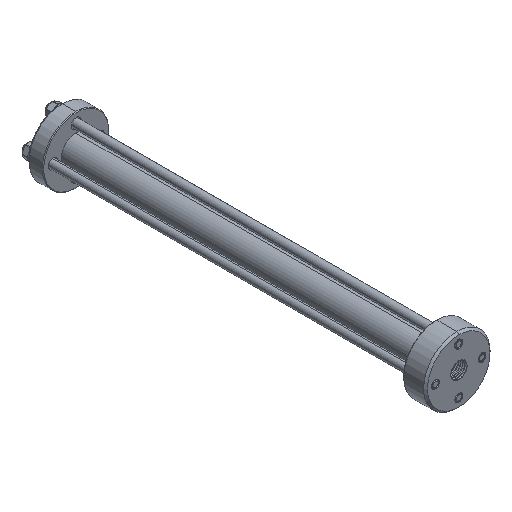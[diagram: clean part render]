
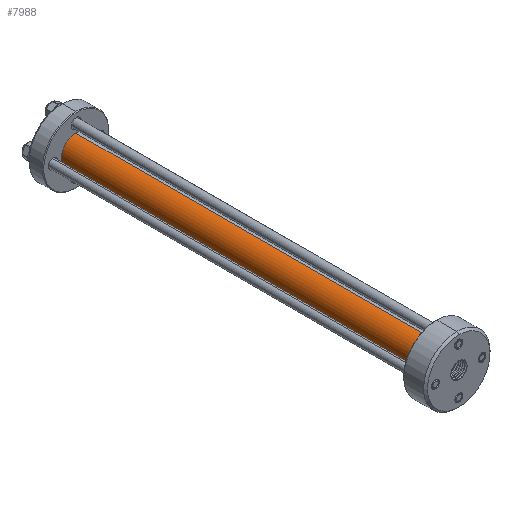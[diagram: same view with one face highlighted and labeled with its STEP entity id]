
A CAD part, isometric view. The second image highlights one B-rep face of the part: STEP entity #7988.
In plain terms, the highlighted cylindrical face has radius 11 mm (diameter 22 mm), a partial arc.
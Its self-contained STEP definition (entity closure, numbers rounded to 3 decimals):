
#1995 = CARTESIAN_POINT ( 'NONE',  ( 40.045, 23.458, 101.617 ) ) ;
#2233 = AXIS2_PLACEMENT_3D ( 'NONE', #1995, #11554, #6445 ) ;
#3775 = CYLINDRICAL_SURFACE ( 'NONE', #40906, 11. ) ;
#4003 = DIRECTION ( 'NONE',  ( 0., 0., 1. ) ) ;
#6445 = DIRECTION ( 'NONE',  ( 0., 0., 1. ) ) ;
#7988 = ADVANCED_FACE ( 'NONE', ( #61710 ), #3775, .T. ) ;
#11554 = DIRECTION ( 'NONE',  ( 0., 1., 0. ) ) ;
#12233 = ORIENTED_EDGE ( 'NONE', *, *, #29730, .T. ) ;
#12776 = CIRCLE ( 'NONE', #46467, 11. ) ;
#18334 = CARTESIAN_POINT ( 'NONE',  ( 40.045, 302.458, 101.617 ) ) ;
#18993 = DIRECTION ( 'NONE',  ( 0., 1., 0. ) ) ;
#19296 = CARTESIAN_POINT ( 'NONE',  ( 40.045, 302.458, 90.617 ) ) ;
#19760 = ORIENTED_EDGE ( 'NONE', *, *, #61955, .F. ) ;
#20786 = LINE ( 'NONE', #57219, #39354 ) ;
#23316 = ORIENTED_EDGE ( 'NONE', *, *, #66487, .T. ) ;
#29730 = EDGE_CURVE ( 'NONE', #52664, #52238, #31565, .T. ) ;
#31565 = CIRCLE ( 'NONE', #2233, 11. ) ;
#33538 = VERTEX_POINT ( 'NONE', #50091 ) ;
#33922 = DIRECTION ( 'NONE',  ( 0., -1., 0. ) ) ;
#35370 = EDGE_LOOP ( 'NONE', ( #19760, #66238, #23316, #12233 ) ) ;
#39003 = EDGE_CURVE ( 'NONE', #51403, #33538, #12776, .T. ) ;
#39354 = VECTOR ( 'NONE', #61363, 1000. ) ;
#40824 = VECTOR ( 'NONE', #33922, 1000. ) ;
#40906 = AXIS2_PLACEMENT_3D ( 'NONE', #51125, #66173, #45036 ) ;
#45036 = DIRECTION ( 'NONE',  ( 0., 0., -1. ) ) ;
#46467 = AXIS2_PLACEMENT_3D ( 'NONE', #18334, #18993, #4003 ) ;
#50091 = CARTESIAN_POINT ( 'NONE',  ( 40.045, 302.458, 112.617 ) ) ;
#51125 = CARTESIAN_POINT ( 'NONE',  ( 40.045, 302.458, 101.617 ) ) ;
#51403 = VERTEX_POINT ( 'NONE', #51951 ) ;
#51464 = CARTESIAN_POINT ( 'NONE',  ( 40.045, 23.458, 112.617 ) ) ;
#51951 = CARTESIAN_POINT ( 'NONE',  ( 40.045, 302.458, 90.617 ) ) ;
#52238 = VERTEX_POINT ( 'NONE', #51464 ) ;
#52664 = VERTEX_POINT ( 'NONE', #57402 ) ;
#56073 = LINE ( 'NONE', #19296, #40824 ) ;
#57219 = CARTESIAN_POINT ( 'NONE',  ( 40.045, 302.458, 112.617 ) ) ;
#57402 = CARTESIAN_POINT ( 'NONE',  ( 40.045, 23.458, 90.617 ) ) ;
#61363 = DIRECTION ( 'NONE',  ( 0., -1., 0. ) ) ;
#61710 = FACE_OUTER_BOUND ( 'NONE', #35370, .T. ) ;
#61955 = EDGE_CURVE ( 'NONE', #33538, #52238, #20786, .T. ) ;
#66173 = DIRECTION ( 'NONE',  ( 0., -1., 0. ) ) ;
#66238 = ORIENTED_EDGE ( 'NONE', *, *, #39003, .F. ) ;
#66487 = EDGE_CURVE ( 'NONE', #51403, #52664, #56073, .T. ) ;
